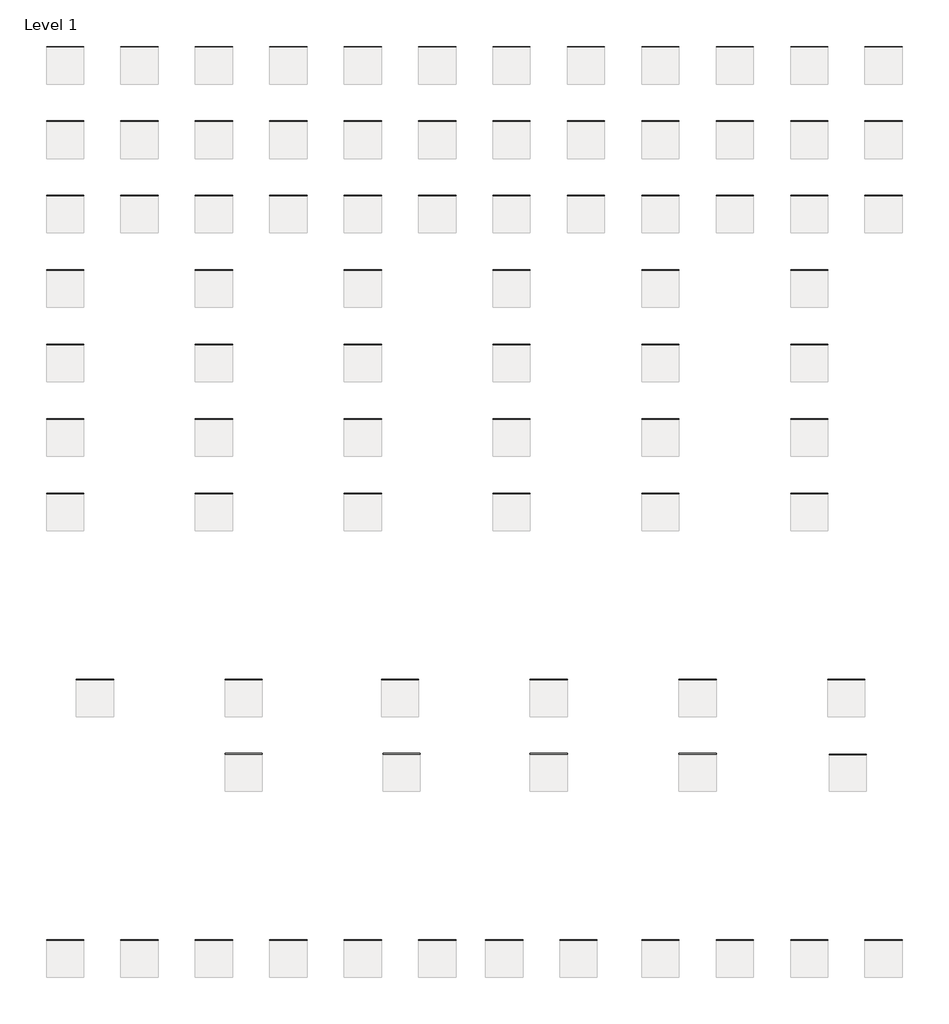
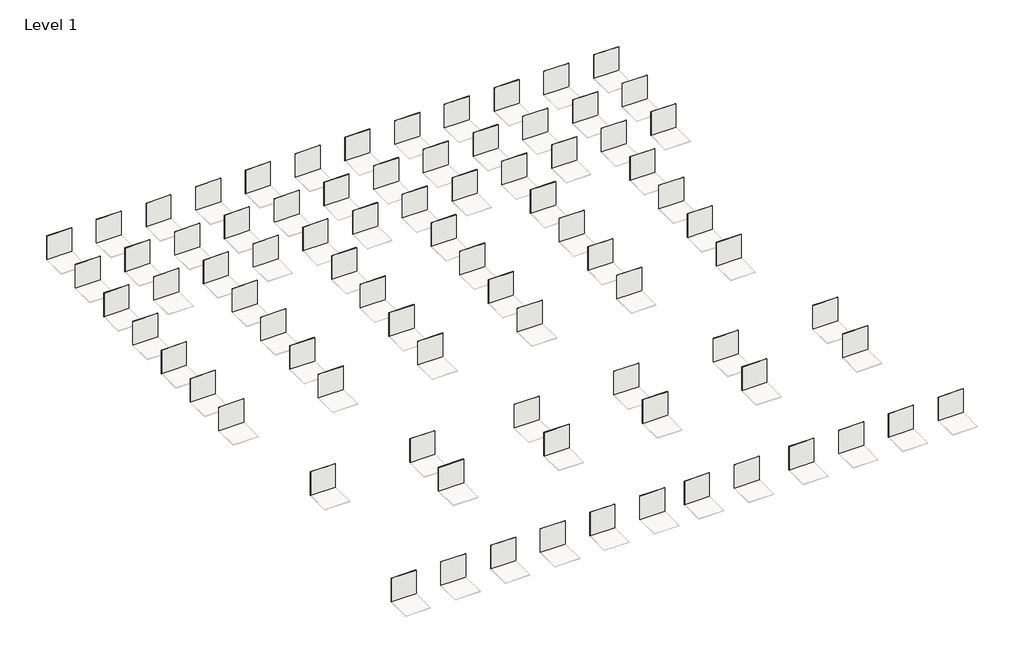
# One storey, part 1 of 2: 83 coverings.
"""IFC4 building model written with IfcOpenShell, lengths in millimetres."""

from ifc_helpers import new_model, si_unit, origin, origin_with_axes, place, context, project, spatial, polyline, outline, extrude, element, save

model = new_model("IFC4")

# Units and contexts
model_context = context("Model", 3, world=origin())
ifc_project = project(units=[si_unit("LENGTHUNIT", "METRE", prefix="MILLI")], contexts=[model_context])

# Site, building, storey
site = spatial("IfcSite", under=ifc_project)
building = spatial("IfcBuilding", under=site)
storey = spatial("IfcBuildingStorey", under=building, Name="Level 1", Elevation=0.0)

# Coverings
placement = place(None, origin())
element("IfcCovering", 1, ObjectType="REVIGRES-URBAN-BASE-29,5X29,5-RECT-ANTRACITE", at=placement, inside=storey, context=model_context, shape_type="SweptSolid", body=[
    extrude(outline(polyline([(3778.642714, -1191.9242026), (2778.642714, -1191.9242026), (2778.642714, -1184.2242026), (3778.642714, -1184.2242026), (3778.642714, -1191.9242026)])), origin_with_axes(), (0.0, 0.0, 1.0), 1000.0),
])
element("IfcCovering", 2, ObjectType="REVIGRES-URBAN-BASE-30X30-NAT-ANTRACITE", at=placement, inside=storey, context=model_context, shape_type="SweptSolid", body=[
    extrude(outline(polyline([(5778.642714, -1191.9242026), (4778.642714, -1191.9242026), (4778.642714, -1183.4242026), (5778.642714, -1183.4242026), (5778.642714, -1191.9242026)])), origin_with_axes(), (0.0, 0.0, 1.0), 1000.0),
])
element("IfcCovering", 3, ObjectType="REVIGRES-URBAN-BASE-29,5X29,5-RECT-BONE", at=placement, inside=storey, context=model_context, shape_type="SweptSolid", body=[
    extrude(outline(polyline([(7778.642714, -1191.9242026), (6778.642714, -1191.9242026), (6778.642714, -1184.2242026), (7778.642714, -1184.2242026), (7778.642714, -1191.9242026)])), origin_with_axes(), (0.0, 0.0, 1.0), 1000.0),
])
element("IfcCovering", 4, ObjectType="REVIGRES-URBAN-BASE-30X30-NAT-BONE", at=placement, inside=storey, context=model_context, shape_type="SweptSolid", body=[
    extrude(outline(polyline([(9778.642714, -1191.9242026), (8778.642714, -1191.9242026), (8778.642714, -1183.4242026), (9778.642714, -1183.4242026), (9778.642714, -1191.9242026)])), origin_with_axes(), (0.0, 0.0, 1.0), 1000.0),
])
element("IfcCovering", 5, ObjectType="REVIGRES-URBAN-BASE-29,5X29,5-RECT-CRAFT", at=placement, inside=storey, context=model_context, shape_type="SweptSolid", body=[
    extrude(outline(polyline([(11778.642714, -1191.9242026), (10778.642714, -1191.9242026), (10778.642714, -1184.2242026), (11778.642714, -1184.2242026), (11778.642714, -1191.9242026)])), origin_with_axes(), (0.0, 0.0, 1.0), 1000.0),
])
element("IfcCovering", 6, ObjectType="REVIGRES-URBAN-BASE-30X30-NAT-CRAFT", at=placement, inside=storey, context=model_context, shape_type="SweptSolid", body=[
    extrude(outline(polyline([(13778.642714, -1191.9242026), (12778.642714, -1191.9242026), (12778.642714, -1183.4242026), (13778.642714, -1183.4242026), (13778.642714, -1191.9242026)])), origin_with_axes(), (0.0, 0.0, 1.0), 1000.0),
])
element("IfcCovering", 7, ObjectType="REVIGRES-URBAN-BASE-29,5X29,5-RECT-FOG", at=placement, inside=storey, context=model_context, shape_type="SweptSolid", body=[
    extrude(outline(polyline([(15778.642714, -1191.9242026), (14778.642714, -1191.9242026), (14778.642714, -1184.2242026), (15778.642714, -1184.2242026), (15778.642714, -1191.9242026)])), origin_with_axes(), (0.0, 0.0, 1.0), 1000.0),
])
element("IfcCovering", 8, ObjectType="REVIGRES-URBAN-BASE-30X30-NAT-FOG", at=placement, inside=storey, context=model_context, shape_type="SweptSolid", body=[
    extrude(outline(polyline([(17778.642714, -1191.9242026), (16778.642714, -1191.9242026), (16778.642714, -1183.4242026), (17778.642714, -1183.4242026), (17778.642714, -1191.9242026)])), origin_with_axes(), (0.0, 0.0, 1.0), 1000.0),
])
element("IfcCovering", 9, ObjectType="REVIGRES-URBAN-BASE-29,5X29,5-RECT-GRIS", at=placement, inside=storey, context=model_context, shape_type="SweptSolid", body=[
    extrude(outline(polyline([(19778.642714, -1191.9242026), (18778.642714, -1191.9242026), (18778.642714, -1184.2242026), (19778.642714, -1184.2242026), (19778.642714, -1191.9242026)])), origin_with_axes(), (0.0, 0.0, 1.0), 1000.0),
])
element("IfcCovering", 10, ObjectType="REVIGRES-URBAN-BASE-30X30-NAT-GRIS", at=placement, inside=storey, context=model_context, shape_type="SweptSolid", body=[
    extrude(outline(polyline([(21778.642714, -1191.9242026), (20778.642714, -1191.9242026), (20778.642714, -1183.4242026), (21778.642714, -1183.4242026), (21778.642714, -1191.9242026)])), origin_with_axes(), (0.0, 0.0, 1.0), 1000.0),
])
element("IfcCovering", 11, ObjectType="REVIGRES-URBAN-BASE-29,5X29,5-RECT-OFFWHITE", at=placement, inside=storey, context=model_context, shape_type="SweptSolid", body=[
    extrude(outline(polyline([(23778.642714, -1191.9242026), (22778.642714, -1191.9242026), (22778.642714, -1184.2242026), (23778.642714, -1184.2242026), (23778.642714, -1191.9242026)])), origin_with_axes(), (0.0, 0.0, 1.0), 1000.0),
])
element("IfcCovering", 12, ObjectType="REVIGRES-URBAN-BASE-29,5X59,2-RECT-ANTRACITE", at=placement, inside=storey, context=model_context, shape_type="SweptSolid", body=[
    extrude(outline(polyline([(3778.642714, -3191.9242026), (2778.642714, -3191.9242026), (2778.642714, -3183.4242026), (3778.642714, -3183.4242026), (3778.642714, -3191.9242026)])), origin_with_axes(), (0.0, 0.0, 1.0), 1000.0),
])
element("IfcCovering", 13, ObjectType="REVIGRES-URBAN-BASE-29,5X59,2-RECT-BONE", at=placement, inside=storey, context=model_context, shape_type="SweptSolid", body=[
    extrude(outline(polyline([(7778.642714, -3191.9242026), (6778.642714, -3191.9242026), (6778.642714, -3183.4242026), (7778.642714, -3183.4242026), (7778.642714, -3191.9242026)])), origin_with_axes(), (0.0, 0.0, 1.0), 1000.0),
])
element("IfcCovering", 14, ObjectType="REVIGRES-URBAN-BASE-29,5X59,2-RECT-CRAFT", at=placement, inside=storey, context=model_context, shape_type="SweptSolid", body=[
    extrude(outline(polyline([(11778.642714, -3191.9242026), (10778.642714, -3191.9242026), (10778.642714, -3183.4242026), (11778.642714, -3183.4242026), (11778.642714, -3191.9242026)])), origin_with_axes(), (0.0, 0.0, 1.0), 1000.0),
])
element("IfcCovering", 15, ObjectType="REVIGRES-URBAN-BASE-29,5X59,2-RECT-FOG", at=placement, inside=storey, context=model_context, shape_type="SweptSolid", body=[
    extrude(outline(polyline([(15778.642714, -3191.9242026), (14778.642714, -3191.9242026), (14778.642714, -3183.4242026), (15778.642714, -3183.4242026), (15778.642714, -3191.9242026)])), origin_with_axes(), (0.0, 0.0, 1.0), 1000.0),
])
element("IfcCovering", 16, ObjectType="REVIGRES-URBAN-BASE-29,5X59,2-RECT-GRIS", at=placement, inside=storey, context=model_context, shape_type="SweptSolid", body=[
    extrude(outline(polyline([(19778.642714, -3191.9242026), (18778.642714, -3191.9242026), (18778.642714, -3183.4242026), (19778.642714, -3183.4242026), (19778.642714, -3191.9242026)])), origin_with_axes(), (0.0, 0.0, 1.0), 1000.0),
])
element("IfcCovering", 17, ObjectType="REVIGRES-URBAN-BASE-29,5X59,2-RECT-OFFWHITE", at=placement, inside=storey, context=model_context, shape_type="SweptSolid", body=[
    extrude(outline(polyline([(23778.642714, -3191.9242026), (22778.642714, -3191.9242026), (22778.642714, -3183.4242026), (23778.642714, -3183.4242026), (23778.642714, -3191.9242026)])), origin_with_axes(), (0.0, 0.0, 1.0), 1000.0),
])
element("IfcCovering", 18, ObjectType="REVIGRES-URBAN-BASE-44,35X44,35-RECT-ANTRACITE", at=placement, inside=storey, context=model_context, shape_type="SweptSolid", body=[
    extrude(outline(polyline([(3778.642714, -5191.9242026), (2778.642714, -5191.9242026), (2778.642714, -5183.4242026), (3778.642714, -5183.4242026), (3778.642714, -5191.9242026)])), origin_with_axes(), (0.0, 0.0, 1.0), 1000.0),
])
element("IfcCovering", 19, ObjectType="REVIGRES-URBAN-BASE-45X45-NAT-ANTRACITE", at=placement, inside=storey, context=model_context, shape_type="SweptSolid", body=[
    extrude(outline(polyline([(5778.642714, -5191.9242026), (4778.642714, -5191.9242026), (4778.642714, -5183.4242026), (5778.642714, -5183.4242026), (5778.642714, -5191.9242026)])), origin_with_axes(), (0.0, 0.0, 1.0), 1000.0),
])
element("IfcCovering", 20, ObjectType="REVIGRES-URBAN-BASE-44,35X44,35-RECT-BONE", at=placement, inside=storey, context=model_context, shape_type="SweptSolid", body=[
    extrude(outline(polyline([(7778.642714, -5191.9242026), (6778.642714, -5191.9242026), (6778.642714, -5183.4242026), (7778.642714, -5183.4242026), (7778.642714, -5191.9242026)])), origin_with_axes(), (0.0, 0.0, 1.0), 1000.0),
])
element("IfcCovering", 21, ObjectType="REVIGRES-URBAN-BASE-45X45-NAT-BONE", at=placement, inside=storey, context=model_context, shape_type="SweptSolid", body=[
    extrude(outline(polyline([(9778.642714, -5191.9242026), (8778.642714, -5191.9242026), (8778.642714, -5183.4242026), (9778.642714, -5183.4242026), (9778.642714, -5191.9242026)])), origin_with_axes(), (0.0, 0.0, 1.0), 1000.0),
])
element("IfcCovering", 22, ObjectType="REVIGRES-URBAN-BASE-44,35X44,35-RECT-CRAFT", at=placement, inside=storey, context=model_context, shape_type="SweptSolid", body=[
    extrude(outline(polyline([(11778.642714, -5191.9242026), (10778.642714, -5191.9242026), (10778.642714, -5183.4242026), (11778.642714, -5183.4242026), (11778.642714, -5191.9242026)])), origin_with_axes(), (0.0, 0.0, 1.0), 1000.0),
])
element("IfcCovering", 23, ObjectType="REVIGRES-URBAN-BASE-45X45-NAT-CRAFT", at=placement, inside=storey, context=model_context, shape_type="SweptSolid", body=[
    extrude(outline(polyline([(13778.642714, -5191.9242026), (12778.642714, -5191.9242026), (12778.642714, -5183.4242026), (13778.642714, -5183.4242026), (13778.642714, -5191.9242026)])), origin_with_axes(), (0.0, 0.0, 1.0), 1000.0),
])
element("IfcCovering", 24, ObjectType="REVIGRES-URBAN-BASE-44,35X44,35-RECT-FOG", at=placement, inside=storey, context=model_context, shape_type="SweptSolid", body=[
    extrude(outline(polyline([(15778.642714, -5191.9242026), (14778.642714, -5191.9242026), (14778.642714, -5183.4242026), (15778.642714, -5183.4242026), (15778.642714, -5191.9242026)])), origin_with_axes(), (0.0, 0.0, 1.0), 1000.0),
])
element("IfcCovering", 25, ObjectType="REVIGRES-URBAN-BASE-45X45-NAT-FOG", at=placement, inside=storey, context=model_context, shape_type="SweptSolid", body=[
    extrude(outline(polyline([(17778.642714, -5191.9242026), (16778.642714, -5191.9242026), (16778.642714, -5183.4242026), (17778.642714, -5183.4242026), (17778.642714, -5191.9242026)])), origin_with_axes(), (0.0, 0.0, 1.0), 1000.0),
])
element("IfcCovering", 26, ObjectType="REVIGRES-URBAN-BASE-44,35X44,35-RECT-GRIS", at=placement, inside=storey, context=model_context, shape_type="SweptSolid", body=[
    extrude(outline(polyline([(19778.642714, -5191.9242026), (18778.642714, -5191.9242026), (18778.642714, -5183.4242026), (19778.642714, -5183.4242026), (19778.642714, -5191.9242026)])), origin_with_axes(), (0.0, 0.0, 1.0), 1000.0),
])
element("IfcCovering", 27, ObjectType="REVIGRES-URBAN-BASE-45X45-NAT-GRIS", at=placement, inside=storey, context=model_context, shape_type="SweptSolid", body=[
    extrude(outline(polyline([(21778.642714, -5191.9242026), (20778.642714, -5191.9242026), (20778.642714, -5183.4242026), (21778.642714, -5183.4242026), (21778.642714, -5191.9242026)])), origin_with_axes(), (0.0, 0.0, 1.0), 1000.0),
])
element("IfcCovering", 28, ObjectType="REVIGRES-URBAN-BASE-44,35X44,35-RECT-OFFWHITE", at=placement, inside=storey, context=model_context, shape_type="SweptSolid", body=[
    extrude(outline(polyline([(23778.642714, -5191.9242026), (22778.642714, -5191.9242026), (22778.642714, -5183.4242026), (23778.642714, -5183.4242026), (23778.642714, -5191.9242026)])), origin_with_axes(), (0.0, 0.0, 1.0), 1000.0),
])
element("IfcCovering", 29, ObjectType="REVIGRES-URBAN-BASE-44,35X88,9-RECT-ANTRACITE", at=placement, inside=storey, context=model_context, shape_type="SweptSolid", body=[
    extrude(outline(polyline([(3778.642714, -7191.9242026), (2778.642714, -7191.9242026), (2778.642714, -7181.4242026), (3778.642714, -7181.4242026), (3778.642714, -7191.9242026)])), origin_with_axes(), (0.0, 0.0, 1.0), 1000.0),
])
element("IfcCovering", 30, ObjectType="REVIGRES-URBAN-BASE-44,35X88,9-RECT-BONE", at=placement, inside=storey, context=model_context, shape_type="SweptSolid", body=[
    extrude(outline(polyline([(7778.642714, -7191.9242026), (6778.642714, -7191.9242026), (6778.642714, -7181.4242026), (7778.642714, -7181.4242026), (7778.642714, -7191.9242026)])), origin_with_axes(), (0.0, 0.0, 1.0), 1000.0),
])
element("IfcCovering", 31, ObjectType="REVIGRES-URBAN-BASE-44,35X88,9-RECT-CRAFT", at=placement, inside=storey, context=model_context, shape_type="SweptSolid", body=[
    extrude(outline(polyline([(11778.642714, -7191.9242026), (10778.642714, -7191.9242026), (10778.642714, -7181.4242026), (11778.642714, -7181.4242026), (11778.642714, -7191.9242026)])), origin_with_axes(), (0.0, 0.0, 1.0), 1000.0),
])
element("IfcCovering", 32, ObjectType="REVIGRES-URBAN-BASE-44,35X88,9-RECT-FOG", at=placement, inside=storey, context=model_context, shape_type="SweptSolid", body=[
    extrude(outline(polyline([(15778.642714, -7191.9242026), (14778.642714, -7191.9242026), (14778.642714, -7181.4242026), (15778.642714, -7181.4242026), (15778.642714, -7191.9242026)])), origin_with_axes(), (0.0, 0.0, 1.0), 1000.0),
])
element("IfcCovering", 33, ObjectType="REVIGRES-URBAN-BASE-44,35X88,9-RECT-GRIS", at=placement, inside=storey, context=model_context, shape_type="SweptSolid", body=[
    extrude(outline(polyline([(19778.642714, -7191.9242026), (18778.642714, -7191.9242026), (18778.642714, -7181.4242026), (19778.642714, -7181.4242026), (19778.642714, -7191.9242026)])), origin_with_axes(), (0.0, 0.0, 1.0), 1000.0),
])
element("IfcCovering", 34, ObjectType="REVIGRES-URBAN-BASE-44,35X88,9-RECT-OFFWHITE", at=placement, inside=storey, context=model_context, shape_type="SweptSolid", body=[
    extrude(outline(polyline([(23778.642714, -7191.9242026), (22778.642714, -7191.9242026), (22778.642714, -7181.4242026), (23778.642714, -7181.4242026), (23778.642714, -7191.9242026)])), origin_with_axes(), (0.0, 0.0, 1.0), 1000.0),
])
element("IfcCovering", 35, ObjectType="REVIGRES-URBAN-BASE-59,2X59,2-RECT-ANTRACITE", at=placement, inside=storey, context=model_context, shape_type="SweptSolid", body=[
    extrude(outline(polyline([(3778.642714, -9191.9242026), (2778.642714, -9191.9242026), (2778.642714, -9181.4242026), (3778.642714, -9181.4242026), (3778.642714, -9191.9242026)])), origin_with_axes(), (0.0, 0.0, 1.0), 1000.0),
])
element("IfcCovering", 36, ObjectType="REVIGRES-URBAN-BASE-59,2X59,2-RECT-BONE", at=placement, inside=storey, context=model_context, shape_type="SweptSolid", body=[
    extrude(outline(polyline([(7778.642714, -9191.9242026), (6778.642714, -9191.9242026), (6778.642714, -9181.4242026), (7778.642714, -9181.4242026), (7778.642714, -9191.9242026)])), origin_with_axes(), (0.0, 0.0, 1.0), 1000.0),
])
element("IfcCovering", 37, ObjectType="REVIGRES-URBAN-BASE-59,2X59,2-RECT-CRAFT", at=placement, inside=storey, context=model_context, shape_type="SweptSolid", body=[
    extrude(outline(polyline([(11778.642714, -9191.9242026), (10778.642714, -9191.9242026), (10778.642714, -9181.4242026), (11778.642714, -9181.4242026), (11778.642714, -9191.9242026)])), origin_with_axes(), (0.0, 0.0, 1.0), 1000.0),
])
element("IfcCovering", 38, ObjectType="REVIGRES-URBAN-BASE-59,2X59,2-RECT-FOG", at=placement, inside=storey, context=model_context, shape_type="SweptSolid", body=[
    extrude(outline(polyline([(15778.642714, -9191.9242026), (14778.642714, -9191.9242026), (14778.642714, -9181.4242026), (15778.642714, -9181.4242026), (15778.642714, -9191.9242026)])), origin_with_axes(), (0.0, 0.0, 1.0), 1000.0),
])
element("IfcCovering", 39, ObjectType="REVIGRES-URBAN-BASE-59,2X59,2-RECT-GRIS", at=placement, inside=storey, context=model_context, shape_type="SweptSolid", body=[
    extrude(outline(polyline([(19778.642714, -9191.9242026), (18778.642714, -9191.9242026), (18778.642714, -9181.4242026), (19778.642714, -9181.4242026), (19778.642714, -9191.9242026)])), origin_with_axes(), (0.0, 0.0, 1.0), 1000.0),
])
element("IfcCovering", 40, ObjectType="REVIGRES-URBAN-BASE-59,2X59,2-RECT-OFFWHITE", at=placement, inside=storey, context=model_context, shape_type="SweptSolid", body=[
    extrude(outline(polyline([(23778.642714, -9191.9242026), (22778.642714, -9191.9242026), (22778.642714, -9181.4242026), (23778.642714, -9181.4242026), (23778.642714, -9191.9242026)])), origin_with_axes(), (0.0, 0.0, 1.0), 1000.0),
])
element("IfcCovering", 41, ObjectType="REVIGRES-URBAN-BASE-59,2X118,6-RECT-ANTRACITE", at=placement, inside=storey, context=model_context, shape_type="SweptSolid", body=[
    extrude(outline(polyline([(3778.642714, -11191.9242026), (2778.642714, -11191.9242026), (2778.642714, -11182.1242026), (3778.642714, -11182.1242026), (3778.642714, -11191.9242026)])), origin_with_axes(), (0.0, 0.0, 1.0), 1000.0),
])
element("IfcCovering", 42, ObjectType="REVIGRES-URBAN-BASE-59,2X118,6-RECT-BONE", at=placement, inside=storey, context=model_context, shape_type="SweptSolid", body=[
    extrude(outline(polyline([(7778.642714, -11191.9242026), (6778.642714, -11191.9242026), (6778.642714, -11182.1242026), (7778.642714, -11182.1242026), (7778.642714, -11191.9242026)])), origin_with_axes(), (0.0, 0.0, 1.0), 1000.0),
])
element("IfcCovering", 43, ObjectType="REVIGRES-URBAN-BASE-59,2X118,6-RECT-CRAFT", at=placement, inside=storey, context=model_context, shape_type="SweptSolid", body=[
    extrude(outline(polyline([(11778.642714, -11191.9242026), (10778.642714, -11191.9242026), (10778.642714, -11182.1242026), (11778.642714, -11182.1242026), (11778.642714, -11191.9242026)])), origin_with_axes(), (0.0, 0.0, 1.0), 1000.0),
])
element("IfcCovering", 44, ObjectType="REVIGRES-URBAN-BASE-59,2X118,6-RECT-FOG", at=placement, inside=storey, context=model_context, shape_type="SweptSolid", body=[
    extrude(outline(polyline([(15778.642714, -11191.9242026), (14778.642714, -11191.9242026), (14778.642714, -11182.1242026), (15778.642714, -11182.1242026), (15778.642714, -11191.9242026)])), origin_with_axes(), (0.0, 0.0, 1.0), 1000.0),
])
element("IfcCovering", 45, ObjectType="REVIGRES-URBAN-BASE-59,2X118,6-RECT-GRIS", at=placement, inside=storey, context=model_context, shape_type="SweptSolid", body=[
    extrude(outline(polyline([(19778.642714, -11191.9242026), (18778.642714, -11191.9242026), (18778.642714, -11182.1242026), (19778.642714, -11182.1242026), (19778.642714, -11191.9242026)])), origin_with_axes(), (0.0, 0.0, 1.0), 1000.0),
])
element("IfcCovering", 46, ObjectType="REVIGRES-URBAN-BASE-59,2X118,6-RECT-OFFWHITE", at=placement, inside=storey, context=model_context, shape_type="SweptSolid", body=[
    extrude(outline(polyline([(23778.642714, -11191.9242026), (22778.642714, -11191.9242026), (22778.642714, -11182.1242026), (23778.642714, -11182.1242026), (23778.642714, -11191.9242026)])), origin_with_axes(), (0.0, 0.0, 1.0), 1000.0),
])
element("IfcCovering", 47, ObjectType="REVIGRES-URBAN-BASE-88,9X88,9-RECT-ANTRACITE", at=placement, inside=storey, context=model_context, shape_type="SweptSolid", body=[
    extrude(outline(polyline([(3778.642714, -13191.9242026), (2778.642714, -13191.9242026), (2778.642714, -13181.4242026), (3778.642714, -13181.4242026), (3778.642714, -13191.9242026)])), origin_with_axes(), (0.0, 0.0, 1.0), 1000.0),
])
element("IfcCovering", 48, ObjectType="REVIGRES-URBAN-BASE-88,9X88,9-RECT-BONE", at=placement, inside=storey, context=model_context, shape_type="SweptSolid", body=[
    extrude(outline(polyline([(7778.642714, -13191.9242026), (6778.642714, -13191.9242026), (6778.642714, -13181.4242026), (7778.642714, -13181.4242026), (7778.642714, -13191.9242026)])), origin_with_axes(), (0.0, 0.0, 1.0), 1000.0),
])
element("IfcCovering", 49, ObjectType="REVIGRES-URBAN-BASE-88,9X88,9-RECT-CRAFT", at=placement, inside=storey, context=model_context, shape_type="SweptSolid", body=[
    extrude(outline(polyline([(11778.642714, -13191.9242026), (10778.642714, -13191.9242026), (10778.642714, -13181.4242026), (11778.642714, -13181.4242026), (11778.642714, -13191.9242026)])), origin_with_axes(), (0.0, 0.0, 1.0), 1000.0),
])
element("IfcCovering", 50, ObjectType="REVIGRES-URBAN-BASE-88,9X88,9-RECT-FOG", at=placement, inside=storey, context=model_context, shape_type="SweptSolid", body=[
    extrude(outline(polyline([(15778.642714, -13191.9242026), (14778.642714, -13191.9242026), (14778.642714, -13181.4242026), (15778.642714, -13181.4242026), (15778.642714, -13191.9242026)])), origin_with_axes(), (0.0, 0.0, 1.0), 1000.0),
])
element("IfcCovering", 51, ObjectType="REVIGRES-URBAN-BASE-88,9X88,9-RECT-GRIS", at=placement, inside=storey, context=model_context, shape_type="SweptSolid", body=[
    extrude(outline(polyline([(19778.642714, -13191.9242026), (18778.642714, -13191.9242026), (18778.642714, -13181.4242026), (19778.642714, -13181.4242026), (19778.642714, -13191.9242026)])), origin_with_axes(), (0.0, 0.0, 1.0), 1000.0),
])
element("IfcCovering", 52, ObjectType="REVIGRES-URBAN-BASE-88,9X88,9-RECT-OFFWHITE", at=placement, inside=storey, context=model_context, shape_type="SweptSolid", body=[
    extrude(outline(polyline([(23778.642714, -13191.9242026), (22778.642714, -13191.9242026), (22778.642714, -13181.4242026), (23778.642714, -13181.4242026), (23778.642714, -13191.9242026)])), origin_with_axes(), (0.0, 0.0, 1.0), 1000.0),
])
element("IfcCovering", 53, ObjectType="REVIGRES-URBAN-BASE-30X30-NAT-OFFWHITE", at=placement, inside=storey, context=model_context, shape_type="SweptSolid", body=[
    extrude(outline(polyline([(25778.642714, -1191.9242026), (24778.642714, -1191.9242026), (24778.642714, -1183.4242026), (25778.642714, -1183.4242026), (25778.642714, -1191.9242026)])), origin_with_axes(), (0.0, 0.0, 1.0), 1000.0),
])
element("IfcCovering", 54, ObjectType="REVIGRES-URBAN-BASE-45X45-NAT-OFFWHITE", at=placement, inside=storey, context=model_context, shape_type="SweptSolid", body=[
    extrude(outline(polyline([(25778.642714, -5191.9242026), (24778.642714, -5191.9242026), (24778.642714, -5183.4242026), (25778.642714, -5183.4242026), (25778.642714, -5191.9242026)])), origin_with_axes(), (0.0, 0.0, 1.0), 1000.0),
])
element("IfcCovering", 55, ObjectType="REVIGRES-URBAN-BASE-30X60-NAT-ANTRACITE", at=placement, inside=storey, context=model_context, shape_type="SweptSolid", body=[
    extrude(outline(polyline([(5778.642714, -3191.9242026), (4778.642714, -3191.9242026), (4778.642714, -3183.4242026), (5778.642714, -3183.4242026), (5778.642714, -3191.9242026)])), origin_with_axes(), (0.0, 0.0, 1.0), 1000.0),
])
element("IfcCovering", 56, ObjectType="REVIGRES-URBAN-BASE-30X60-NAT-BONE", at=placement, inside=storey, context=model_context, shape_type="SweptSolid", body=[
    extrude(outline(polyline([(9778.642714, -3191.9242026), (8778.642714, -3191.9242026), (8778.642714, -3183.4242026), (9778.642714, -3183.4242026), (9778.642714, -3191.9242026)])), origin_with_axes(), (0.0, 0.0, 1.0), 1000.0),
])
element("IfcCovering", 57, ObjectType="REVIGRES-URBAN-BASE-30X60-NAT-CRAFT", at=placement, inside=storey, context=model_context, shape_type="SweptSolid", body=[
    extrude(outline(polyline([(13778.642714, -3191.9242026), (12778.642714, -3191.9242026), (12778.642714, -3183.4242026), (13778.642714, -3183.4242026), (13778.642714, -3191.9242026)])), origin_with_axes(), (0.0, 0.0, 1.0), 1000.0),
])
element("IfcCovering", 58, ObjectType="REVIGRES-URBAN-BASE-30X60-NAT-FOG", at=placement, inside=storey, context=model_context, shape_type="SweptSolid", body=[
    extrude(outline(polyline([(17778.642714, -3191.9242026), (16778.642714, -3191.9242026), (16778.642714, -3183.4242026), (17778.642714, -3183.4242026), (17778.642714, -3191.9242026)])), origin_with_axes(), (0.0, 0.0, 1.0), 1000.0),
])
element("IfcCovering", 59, ObjectType="REVIGRES-URBAN-BASE-30X60-NAT-GRIS", at=placement, inside=storey, context=model_context, shape_type="SweptSolid", body=[
    extrude(outline(polyline([(21778.642714, -3191.9242026), (20778.642714, -3191.9242026), (20778.642714, -3183.4242026), (21778.642714, -3183.4242026), (21778.642714, -3191.9242026)])), origin_with_axes(), (0.0, 0.0, 1.0), 1000.0),
])
element("IfcCovering", 60, ObjectType="REVIGRES-URBAN-BASE-30X60-NAT-OFFWHITE", at=placement, inside=storey, context=model_context, shape_type="SweptSolid", body=[
    extrude(outline(polyline([(25778.642714, -3191.9242026), (24778.642714, -3191.9242026), (24778.642714, -3183.4242026), (25778.642714, -3183.4242026), (25778.642714, -3191.9242026)])), origin_with_axes(), (0.0, 0.0, 1.0), 1000.0),
])
element("IfcCovering", 61, ObjectType="REVIGRES-URBAN-BASE-59,2X59,2-ANTISLIPRECT- ANTRACITE", at=placement, inside=storey, context=model_context, shape_type="SweptSolid", body=[
    extrude(outline(polyline([(4578.642714, -18191.9242026), (3578.642714, -18191.9242026), (3578.642714, -18181.4242026), (4578.642714, -18181.4242026), (4578.642714, -18191.9242026)])), origin_with_axes(), (0.0, 0.0, 1.0), 1000.0),
])
element("IfcCovering", 62, ObjectType="REVIGRES-URBAN-BASE-59,2X59,2-ANTISLIPRECT- BONE", at=placement, inside=storey, context=model_context, shape_type="SweptSolid", body=[
    extrude(outline(polyline([(8578.3955056, -18191.9242026), (7578.3955056, -18191.9242026), (7578.3955056, -18181.4242026), (8578.3955056, -18181.4242026), (8578.3955056, -18191.9242026)])), origin_with_axes(), (0.0, 0.0, 1.0), 1000.0),
])
element("IfcCovering", 63, ObjectType="REVIGRES-URBAN-BASE-59,2X59,2-ANTISLIPRECT- CRAFT", at=placement, inside=storey, context=model_context, shape_type="SweptSolid", body=[
    extrude(outline(polyline([(12778.642714, -18191.9242026), (11778.642714, -18191.9242026), (11778.642714, -18181.4242026), (12778.642714, -18181.4242026), (12778.642714, -18191.9242026)])), origin_with_axes(), (0.0, 0.0, 1.0), 1000.0),
])
element("IfcCovering", 64, ObjectType="REVIGRES-URBAN-BASE-59,2X59,2-ANTISLIPRECT- FOG", at=placement, inside=storey, context=model_context, shape_type="SweptSolid", body=[
    extrude(outline(polyline([(16778.642714, -18191.9242026), (15778.642714, -18191.9242026), (15778.642714, -18181.4242026), (16778.642714, -18181.4242026), (16778.642714, -18191.9242026)])), origin_with_axes(), (0.0, 0.0, 1.0), 1000.0),
])
element("IfcCovering", 65, ObjectType="REVIGRES-URBAN-BASE-59,2X59,2-ANTISLIPRECT- GRIS", at=placement, inside=storey, context=model_context, shape_type="SweptSolid", body=[
    extrude(outline(polyline([(20778.642714, -18191.9242026), (19778.642714, -18191.9242026), (19778.642714, -18181.4242026), (20778.642714, -18181.4242026), (20778.642714, -18191.9242026)])), origin_with_axes(), (0.0, 0.0, 1.0), 1000.0),
])
element("IfcCovering", 66, ObjectType="REVIGRES-URBAN-BASE-59,2X59,2-ANTISLIPRECT- OFFWHITE", at=placement, inside=storey, context=model_context, shape_type="SweptSolid", body=[
    extrude(outline(polyline([(24778.642714, -18191.9242026), (23778.642714, -18191.9242026), (23778.642714, -18181.4242026), (24778.642714, -18181.4242026), (24778.642714, -18191.9242026)])), origin_with_axes(), (0.0, 0.0, 1.0), 1000.0),
])
element("IfcCovering", 67, ObjectType="REVIGRES-URBAN-BASE-44,35X44,35-RECT HYDRAULIK ANTRACITE", at=placement, inside=storey, context=model_context, shape_type="SweptSolid", body=[
    extrude(outline(polyline([(3778.642714, -25191.9242026), (2778.642714, -25191.9242026), (2778.642714, -25183.4242026), (3778.642714, -25183.4242026), (3778.642714, -25191.9242026)])), origin_with_axes(), (0.0, 0.0, 1.0), 1000.0),
])
element("IfcCovering", 68, ObjectType="REVIGRES-URBAN-BASE-45X45-NAT HYDRAULIK ANTRACITE", at=placement, inside=storey, context=model_context, shape_type="SweptSolid", body=[
    extrude(outline(polyline([(5778.642714, -25191.9242026), (4778.642714, -25191.9242026), (4778.642714, -25183.4242026), (5778.642714, -25183.4242026), (5778.642714, -25191.9242026)])), origin_with_axes(), (0.0, 0.0, 1.0), 1000.0),
])
element("IfcCovering", 69, ObjectType="REVIGRES-URBAN-BASE-44,35X44,35-RECT HYDRAULIK BONE", at=placement, inside=storey, context=model_context, shape_type="SweptSolid", body=[
    extrude(outline(polyline([(7778.642714, -25191.9242026), (6778.642714, -25191.9242026), (6778.642714, -25183.4242026), (7778.642714, -25183.4242026), (7778.642714, -25191.9242026)])), origin_with_axes(), (0.0, 0.0, 1.0), 1000.0),
])
element("IfcCovering", 70, ObjectType="REVIGRES-URBAN-BASE-45X45-NAT HYDRAULIK BONE", at=placement, inside=storey, context=model_context, shape_type="SweptSolid", body=[
    extrude(outline(polyline([(9778.642714, -25191.9242026), (8778.642714, -25191.9242026), (8778.642714, -25183.4242026), (9778.642714, -25183.4242026), (9778.642714, -25191.9242026)])), origin_with_axes(), (0.0, 0.0, 1.0), 1000.0),
])
element("IfcCovering", 71, ObjectType="REVIGRES-URBAN-BASE-44,35X44,35-RECT HYDRAULIK CRAFT", at=placement, inside=storey, context=model_context, shape_type="SweptSolid", body=[
    extrude(outline(polyline([(11778.642714, -25191.9242026), (10778.642714, -25191.9242026), (10778.642714, -25183.4242026), (11778.642714, -25183.4242026), (11778.642714, -25191.9242026)])), origin_with_axes(), (0.0, 0.0, 1.0), 1000.0),
])
element("IfcCovering", 72, ObjectType="REVIGRES-URBAN-BASE-45X45-NAT HYDRAULIK CRAFT", at=placement, inside=storey, context=model_context, shape_type="SweptSolid", body=[
    extrude(outline(polyline([(13778.642714, -25191.9242026), (12778.642714, -25191.9242026), (12778.642714, -25183.4242026), (13778.642714, -25183.4242026), (13778.642714, -25191.9242026)])), origin_with_axes(), (0.0, 0.0, 1.0), 1000.0),
])
element("IfcCovering", 73, ObjectType="REVIGRES-URBAN-BASE-44,35X44,35-RECT HYDRAULIK FOG", at=placement, inside=storey, context=model_context, shape_type="SweptSolid", body=[
    extrude(outline(polyline([(15578.642714, -25191.9242026), (14578.642714, -25191.9242026), (14578.642714, -25183.4242026), (15578.642714, -25183.4242026), (15578.642714, -25191.9242026)])), origin_with_axes(), (0.0, 0.0, 1.0), 1000.0),
])
element("IfcCovering", 74, ObjectType="REVIGRES-URBAN-BASE-45X45-NAT HYDRAULIK FOG", at=placement, inside=storey, context=model_context, shape_type="SweptSolid", body=[
    extrude(outline(polyline([(17578.642714, -25191.9242026), (16578.642714, -25191.9242026), (16578.642714, -25183.4242026), (17578.642714, -25183.4242026), (17578.642714, -25191.9242026)])), origin_with_axes(), (0.0, 0.0, 1.0), 1000.0),
])
element("IfcCovering", 75, ObjectType="REVIGRES-URBAN-BASE-44,35X44,35-RECT HYDRAULIK GRIS", at=placement, inside=storey, context=model_context, shape_type="SweptSolid", body=[
    extrude(outline(polyline([(19778.642714, -25191.9242026), (18778.642714, -25191.9242026), (18778.642714, -25183.4242026), (19778.642714, -25183.4242026), (19778.642714, -25191.9242026)])), origin_with_axes(), (0.0, 0.0, 1.0), 1000.0),
])
element("IfcCovering", 76, ObjectType="REVIGRES-URBAN-BASE-45X45-NAT HYDRAULIK GRIS", at=placement, inside=storey, context=model_context, shape_type="SweptSolid", body=[
    extrude(outline(polyline([(21778.642714, -25191.9242026), (20778.642714, -25191.9242026), (20778.642714, -25183.4242026), (21778.642714, -25183.4242026), (21778.642714, -25191.9242026)])), origin_with_axes(), (0.0, 0.0, 1.0), 1000.0),
])
element("IfcCovering", 77, ObjectType="REVIGRES-URBAN-BASE-44,35X44,35-RECT HYDRAULIK OFFWHITE", at=placement, inside=storey, context=model_context, shape_type="SweptSolid", body=[
    extrude(outline(polyline([(23778.642714, -25191.9242026), (22778.642714, -25191.9242026), (22778.642714, -25183.4242026), (23778.642714, -25183.4242026), (23778.642714, -25191.9242026)])), origin_with_axes(), (0.0, 0.0, 1.0), 1000.0),
])
element("IfcCovering", 78, ObjectType="REVIGRES-URBAN-BASE-45X45-NAT HYDRAULIK OFFWHITE", at=placement, inside=storey, context=model_context, shape_type="SweptSolid", body=[
    extrude(outline(polyline([(25778.642714, -25191.9242026), (24778.642714, -25191.9242026), (24778.642714, -25183.4242026), (25778.642714, -25183.4242026), (25778.642714, -25191.9242026)])), origin_with_axes(), (0.0, 0.0, 1.0), 1000.0),
])
element("IfcCovering", 79, ObjectType="REVIGRES-URBAN-BASE-59,2X59,2-ANTISLIPRECT-BONE-TECH20", at=placement, inside=storey, context=model_context, shape_type="SweptSolid", body=[
    extrude(outline(polyline([(8578.3955056, -20191.9242026), (7578.3955056, -20191.9242026), (7578.3955056, -20171.9242026), (8578.3955056, -20171.9242026), (8578.3955056, -20191.9242026)])), origin_with_axes(), (0.0, 0.0, 1.0), 1000.0),
])
element("IfcCovering", 80, ObjectType="REVIGRES-URBAN-BASE-59,2X59,2-ANTISLIPRECT-FOG-TECH20", at=placement, inside=storey, context=model_context, shape_type="SweptSolid", body=[
    extrude(outline(polyline([(16778.642714, -20191.9242026), (15778.642714, -20191.9242026), (15778.642714, -20171.9242026), (16778.642714, -20171.9242026), (16778.642714, -20191.9242026)])), origin_with_axes(), (0.0, 0.0, 1.0), 1000.0),
])
element("IfcCovering", 81, ObjectType="REVIGRES-URBAN-BASE-59,2X59,2-ANTISLIPRECT-GRIS-TECH20", at=placement, inside=storey, context=model_context, shape_type="SweptSolid", body=[
    extrude(outline(polyline([(20778.642714, -20191.9242026), (19778.642714, -20191.9242026), (19778.642714, -20171.9242026), (20778.642714, -20171.9242026), (20778.642714, -20191.9242026)])), origin_with_axes(), (0.0, 0.0, 1.0), 1000.0),
])
element("IfcCovering", 82, ObjectType="REVIGRES-URBAN-BASE-59,2X59,2-ANTISLIPRECT-CRAFT-TECH20", at=placement, inside=storey, context=model_context, shape_type="SweptSolid", body=[
    extrude(outline(polyline([(12818.3955056, -20191.9242026), (11818.3955056, -20191.9242026), (11818.3955056, -20171.9242026), (12818.3955056, -20171.9242026), (12818.3955056, -20191.9242026)])), origin_with_axes(), (0.0, 0.0, 1.0), 1000.0),
])
element("IfcCovering", 83, ObjectType="REVIGRES-URBAN-BASE-59,2X59,2-ANTISLIPRECT-OFFWHITE-TECH20", at=placement, inside=storey, context=model_context, shape_type="SweptSolid", body=[
    extrude(outline(polyline([(24818.3955056, -20211.9242026), (23818.3955056, -20211.9242026), (23818.3955056, -20191.9242026), (24818.3955056, -20191.9242026), (24818.3955056, -20211.9242026)])), origin_with_axes(), (0.0, 0.0, 1.0), 1000.0),
])

save(model, "model.ifc")
